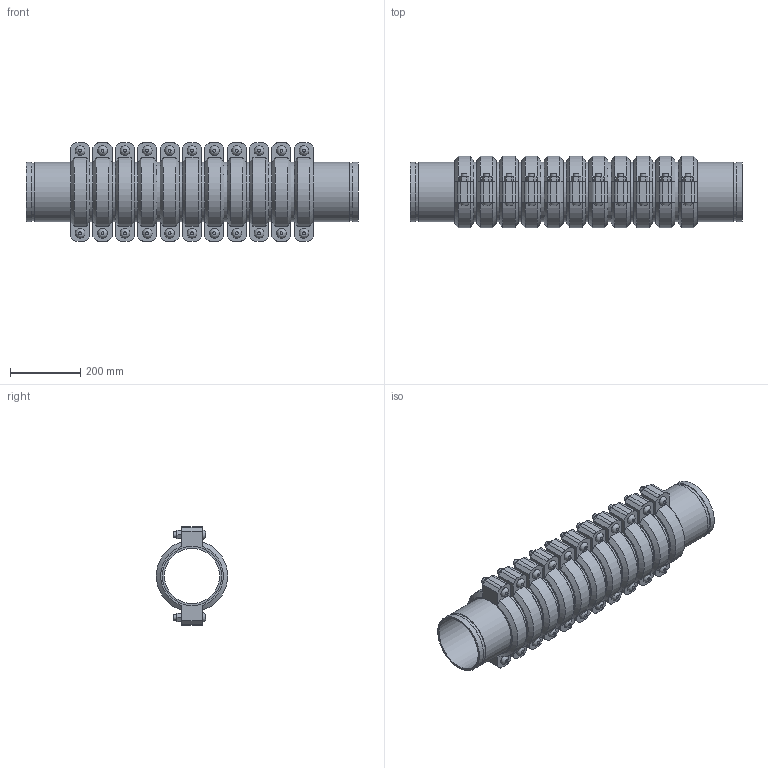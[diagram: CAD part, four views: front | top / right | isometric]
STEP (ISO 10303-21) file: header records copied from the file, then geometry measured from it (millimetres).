
FILE_DESCRIPTION(/* description */ ('VIC SS EXPANSION JOINT 11COUPLINGS NEUTRAL STYLE 155P (OGS) (POTABLE WATER) ','CAx-IF Rec.Pracs.---Representation and Presentation of Product Manufacturing Information (PMI)---4.0---2014-10-13'),/* implementation_level */ '2;1');
FILE_NAME(/* name */ 'C:\Users\kkamble\AppData\Roaming\Autodesk\ApplicationPlugins\Victaulic.Temp\A19\Victaulic_SS_Expansion Joint_Neutral_11 Couplings_Style 155P (OGS)-Potable Water_11 Coup_Neut_6 (150).stp',/* time_stamp */ '2021-07-16T16:28:38+06:00',/* author */ ('kkamble'),/* organization */ ('Victaulic'),/* preprocessor_version */ 'ST-DEVELOPER v17.2',/* originating_system */ 'Autodesk Inventor 2019',/* authorisation */ '');
FILE_SCHEMA (('AP242_MANAGED_MODEL_BASED_3D_ENGINEERING_MIM_LF { 1 0 10303 442 1 1 4 }'));
Length unit declared in the file: inch
Products named in the file (4): 155P-06.0; Nipple-06.0; Nipple-06.0_1; 075-06.0
Assembly tree (23 placements, depth 2):
  155P-06.0
    Nipple-06.0  x2
    Nipple-06.0_1  x10
    075-06.0  x11
Bounding box: 943.61 x 202.46 x 281.18 mm (x, y, z)
Volume: 10633540.1 mm3; surface area: 2294005 mm2
Topology: 23 solids, 45 shells, 771 faces, 1823 edges, 1278 vertices
Faces by surface type: plane 468, cylinder 237, cone 44, bspline 22
Full cylindrical faces by diameter (mm): 15.875 x44, 17.424 x22, 157.15 x12, 161.925 x11, 163.957 x24, 168.275 x58
Entity records: 2897 total; most frequent: CARTESIAN_POINT 507, DIRECTION 489, ORIENTED_EDGE 386, AXIS2_PLACEMENT_3D 198, EDGE_CURVE 193, VERTEX_POINT 138, EDGE_LOOP 107, LINE 93
